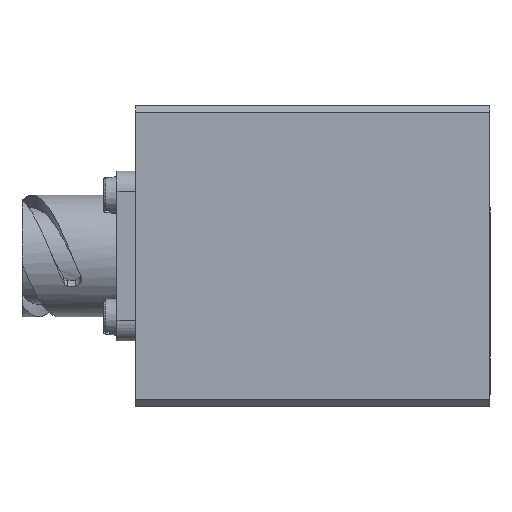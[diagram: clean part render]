
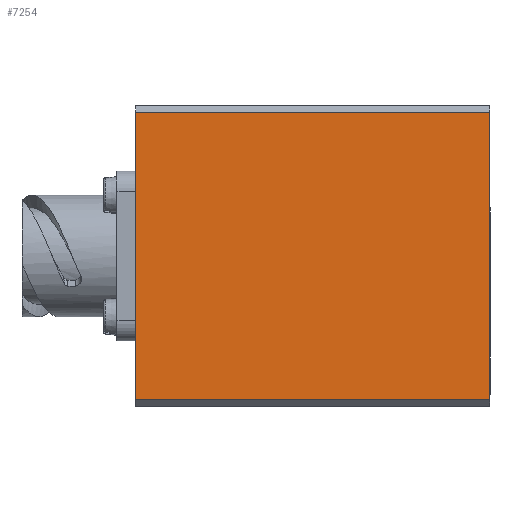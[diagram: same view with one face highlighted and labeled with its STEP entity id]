
A CAD part, front view. The second image highlights one B-rep face of the part: STEP entity #7254.
In plain terms, the highlighted planar face has unit normal (0, -1, 0).
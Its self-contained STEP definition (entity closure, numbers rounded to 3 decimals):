
#155 = LINE ( 'NONE', #1913, #3673 ) ;
#221 = CARTESIAN_POINT ( 'NONE',  ( 0., -22.5, -21.5 ) ) ;
#677 = CARTESIAN_POINT ( 'NONE',  ( 53., -22.5, -21.5 ) ) ;
#693 = DIRECTION ( 'NONE',  ( 1., 0., 0. ) ) ;
#1063 = ORIENTED_EDGE ( 'NONE', *, *, #1171, .T. ) ;
#1136 = CARTESIAN_POINT ( 'NONE',  ( 53., -22.5, -21.5 ) ) ;
#1163 = DIRECTION ( 'NONE',  ( -1., 0., 0. ) ) ;
#1171 = EDGE_CURVE ( 'NONE', #7704, #12535, #4892, .T. ) ;
#1542 = VECTOR ( 'NONE', #1163, 1000. ) ;
#1913 = CARTESIAN_POINT ( 'NONE',  ( 0., -22.5, 22.5 ) ) ;
#1915 = DIRECTION ( 'NONE',  ( 0., 0., -1. ) ) ;
#2349 = EDGE_CURVE ( 'NONE', #10873, #12535, #6220, .T. ) ;
#2430 = CARTESIAN_POINT ( 'NONE',  ( 0., -22.5, 21.5 ) ) ;
#2852 = CARTESIAN_POINT ( 'NONE',  ( 53., -22.5, 22.5 ) ) ;
#3084 = DIRECTION ( 'NONE',  ( 0., 0., 1. ) ) ;
#3102 = DIRECTION ( 'NONE',  ( 0., 1., 0. ) ) ;
#3127 = CARTESIAN_POINT ( 'NONE',  ( 53., -22.5, 22.5 ) ) ;
#3214 = PLANE ( 'NONE',  #10685 ) ;
#3371 = EDGE_CURVE ( 'NONE', #10873, #9898, #8756, .T. ) ;
#3431 = FACE_OUTER_BOUND ( 'NONE', #13063, .T. ) ;
#3673 = VECTOR ( 'NONE', #1915, 1000. ) ;
#4892 = LINE ( 'NONE', #677, #9855 ) ;
#4957 = EDGE_CURVE ( 'NONE', #9898, #7704, #155, .T. ) ;
#6220 = LINE ( 'NONE', #2852, #13499 ) ;
#7254 = ADVANCED_FACE ( 'NONE', ( #3431 ), #3214, .F. ) ;
#7704 = VERTEX_POINT ( 'NONE', #221 ) ;
#8756 = LINE ( 'NONE', #8815, #1542 ) ;
#8815 = CARTESIAN_POINT ( 'NONE',  ( 53., -22.5, 21.5 ) ) ;
#9855 = VECTOR ( 'NONE', #693, 1000. ) ;
#9898 = VERTEX_POINT ( 'NONE', #2430 ) ;
#10292 = ORIENTED_EDGE ( 'NONE', *, *, #2349, .F. ) ;
#10685 = AXIS2_PLACEMENT_3D ( 'NONE', #3127, #3102, #3084 ) ;
#10873 = VERTEX_POINT ( 'NONE', #12205 ) ;
#10944 = ORIENTED_EDGE ( 'NONE', *, *, #4957, .T. ) ;
#12205 = CARTESIAN_POINT ( 'NONE',  ( 53., -22.5, 21.5 ) ) ;
#12290 = DIRECTION ( 'NONE',  ( 0., 0., -1. ) ) ;
#12535 = VERTEX_POINT ( 'NONE', #1136 ) ;
#13063 = EDGE_LOOP ( 'NONE', ( #10944, #1063, #10292, #13618 ) ) ;
#13499 = VECTOR ( 'NONE', #12290, 1000. ) ;
#13618 = ORIENTED_EDGE ( 'NONE', *, *, #3371, .T. ) ;
